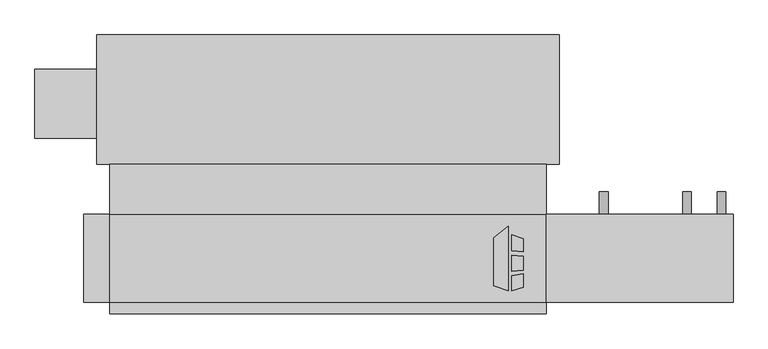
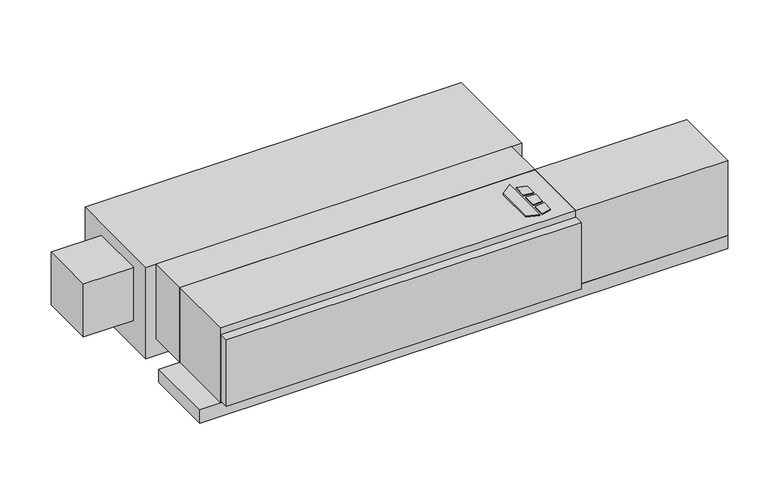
"""IFC4 building model written with IfcOpenShell, lengths in millimetres: proxy geometry, Concealed_Horizontal_Fan_Coil_Unit_With_Plenum_-_CPF_-_IEC_-_4-Pipe_RH : Size 08 - 115v/60Hz/1Ph - 4/1 Coil."""

from ifc_helpers import new_model, si_unit, point, frame, frame_2d, origin, origin_with_axes, place, context, project, spatial, polyline, circle_curve, trimmed, segment, composite_curve, outline, extrude, source, transform, mapped, element, save


def mechanical_equipment_af69e00f(model_context):
    return source(origin(), model_context, "Body", "SweptSolid", [
        extrude(outline(polyline([(518.8019761, -193.0453476), (551.3602728, -167.6080184), (551.3602728, -309.5625), (518.8019761, -299.3429201), (518.8019761, -193.0453476)])), origin_with_axes(), (0.0, 0.0, 1.0), 3.175),
        extrude(outline(polyline([(558.1186058, -220.917352), (558.1186058, -186.4374379), (584.2, -194.6240115), (584.2, -224.1197446), (558.1186058, -220.917352)])), origin_with_axes(), (0.0, 0.0, 1.0), 3.175),
        extrude(outline(polyline([(584.2, -302.5740115), (558.1186058, -309.5625), (558.1186058, -276.3411996), (584.2, -272.7993564), (584.2, -302.5740115)])), origin_with_axes(), (0.0, 0.0, 1.0), 3.175),
        extrude(outline(polyline([(584.2, -233.2013277), (584.2, -264.451483), (558.1186058, -267.192748), (558.1186058, -231.3350378), (584.2, -233.2013277)])), origin_with_axes(), (0.0, 0.0, 1.0), 3.175),
        extrude(outline(polyline([(-330.2, -30.1625), (635.0, -30.1625), (635.0, -141.2875), (-330.2, -141.2875), (-330.2, -30.1625)])), frame((0.0, 0.0, -215.9), z_axis=(0.0, 0.0, 1.0), x_axis=(1.0, 0.0, 0.0)), (0.0, 0.0, 1.0), 215.9),
        extrude(outline(composite_curve([segment(trimmed(circle_curve(frame_2d((-158.75, 946.15)), 9.525), [point((-158.75, 955.675))], [point((-158.75, 936.625))], False, "CARTESIAN"), True, "CONTINUOUS"), segment(trimmed(circle_curve(frame_2d((-158.75, 946.15)), 9.525), [point((-158.75, 936.625))], [point((-158.75, 955.675))], False, "CARTESIAN"), True, "CONTINUOUS")], self_intersect=False)), frame((0.0, -141.2875, 0.0), z_axis=(0.0, 1.0, 0.0), x_axis=(0.0, 0.0, 1.0)), (0.0, 0.0, 1.0), 50.8),
        extrude(outline(composite_curve([segment(trimmed(circle_curve(frame_2d((-69.85, 946.15)), 9.525), [point((-69.85, 955.675))], [point((-69.85, 936.625))], False, "CARTESIAN"), True, "CONTINUOUS"), segment(trimmed(circle_curve(frame_2d((-69.85, 946.15)), 9.525), [point((-69.85, 936.625))], [point((-69.85, 955.675))], False, "CARTESIAN"), True, "CONTINUOUS")], self_intersect=False)), frame((0.0, -141.2875, 0.0), z_axis=(0.0, 1.0, 0.0), x_axis=(0.0, 0.0, 1.0)), (0.0, 0.0, 1.0), 50.8),
        extrude(outline(composite_curve([segment(trimmed(circle_curve(frame_2d((-69.85, 762.0)), 9.525), [point((-69.85, 771.525))], [point((-69.85, 752.475))], False, "CARTESIAN"), True, "CONTINUOUS"), segment(trimmed(circle_curve(frame_2d((-69.85, 762.0)), 9.525), [point((-69.85, 752.475))], [point((-69.85, 771.525))], False, "CARTESIAN"), True, "CONTINUOUS")], self_intersect=False)), frame((0.0, -141.2875, 0.0), z_axis=(0.0, 1.0, 0.0), x_axis=(0.0, 0.0, 1.0)), (0.0, 0.0, 1.0), 50.8),
        extrude(outline(composite_curve([segment(trimmed(circle_curve(frame_2d((-158.75, 762.0)), 9.525), [point((-158.75, 771.525))], [point((-158.75, 752.475))], False, "CARTESIAN"), True, "CONTINUOUS"), segment(trimmed(circle_curve(frame_2d((-158.75, 762.0)), 9.525), [point((-158.75, 752.475))], [point((-158.75, 771.525))], False, "CARTESIAN"), True, "CONTINUOUS")], self_intersect=False)), frame((0.0, -141.2875, 0.0), z_axis=(0.0, 1.0, 0.0), x_axis=(0.0, 0.0, 1.0)), (0.0, 0.0, 1.0), 50.8),
        extrude(outline(polyline([(1047.75, -141.2875), (1047.75, -334.9625), (635.0, -334.9625), (635.0, -141.2875), (1047.75, -141.2875)])), frame((0.0, 0.0, -215.9), z_axis=(0.0, 0.0, 1.0), x_axis=(1.0, 0.0, 0.0)), (0.0, 0.0, 1.0), 215.9),
        extrude(outline(composite_curve([segment(trimmed(circle_curve(frame_2d((-241.3, 1022.35)), 9.525), [point((-241.3, 1012.825))], [point((-241.3, 1031.875))], False, "CARTESIAN"), True, "CONTINUOUS"), segment(trimmed(circle_curve(frame_2d((-241.3, 1022.35)), 9.525), [point((-241.3, 1031.875))], [point((-241.3, 1012.825))], False, "CARTESIAN"), True, "CONTINUOUS")], self_intersect=False)), frame((0.0, -141.2875, 0.0), z_axis=(0.0, 1.0, 0.0), x_axis=(0.0, 0.0, 1.0)), (0.0, 0.0, 1.0), 50.8),
        extrude(outline(polyline([(635.0, -334.9625), (635.0, -360.3625), (-330.2, -360.3625), (-330.2, -334.9625), (635.0, -334.9625)])), frame((0.0, 0.0, -209.55), z_axis=(0.0, 0.0, 1.0), x_axis=(1.0, 0.0, 0.0)), (0.0, 0.0, 1.0), 190.5),
        extrude(outline(polyline([(635.0, -334.9625), (-330.2, -334.9625), (-330.2, -141.2875), (635.0, -141.2875), (635.0, -334.9625)])), frame((0.0, 0.0, -215.9), z_axis=(0.0, 0.0, 1.0), x_axis=(1.0, 0.0, 0.0)), (0.0, 0.0, 1.0), 215.9),
        extrude(outline(polyline([(1047.75, -141.2875), (1047.75, -334.9625), (-387.35, -334.9625), (-387.35, -141.2875), (1047.75, -141.2875)])), frame((0.0, 0.0, -254.0), z_axis=(0.0, 0.0, 1.0), x_axis=(1.0, 0.0, 0.0)), (0.0, 0.0, 1.0), 38.1),
        extrude(outline(polyline([(-495.3, 26.9875), (-495.3, 179.3875), (-358.775, 179.3875), (-358.775, 26.9875), (-495.3, 26.9875)])), frame((0.0, 0.0, -187.325), z_axis=(0.0, 0.0, 1.0), x_axis=(1.0, 0.0, 0.0)), (0.0, 0.0, 1.0), 152.4),
        extrude(outline(polyline([(-358.775, 255.5875), (663.575, 255.5875), (663.575, -30.1625), (-358.775, -30.1625), (-358.775, 255.5875)])), frame((0.0, 0.0, -263.525), z_axis=(0.0, 0.0, 1.0), x_axis=(1.0, 0.0, 0.0)), (0.0, 0.0, 1.0), 263.525),
    ])


if __name__ == "__main__":
    model = new_model("IFC4")
    model_context = context("Model", 3, world=origin())
    ifc_project = project(units=[si_unit("LENGTHUNIT", "METRE", prefix="MILLI")], contexts=[model_context])
    site = spatial("IfcSite", under=ifc_project)
    building = spatial("IfcBuilding", under=site)
    placement = place(None, origin())
    mechanical_equipment_shape = mechanical_equipment_af69e00f(model_context)
    element("IfcBuildingElementProxy", 1, Name="Concealed_Horizontal_Fan_Coil_Unit_With_Plenum_-_CPF_-_IEC_-_4-Pipe_RH : Size 08 - 115v/60Hz/1Ph - 4/1 Coil", ObjectType="Concealed_Horizontal_Fan_Coil_Unit_With_Plenum_-_CPF_-_IEC_-_4-Pipe_RH : Size 08 - 115v/60Hz/1Ph - 4/1 Coil", at=placement, inside=building, context=model_context, shape_type="MappedRepresentation", body=[
        mapped(mechanical_equipment_shape, transform((0.0, 0.0, 0.0), x_axis=(1.0, 0.0, 0.0), y_axis=(0.0, 1.0, 0.0), z_axis=(0.0, 0.0, 1.0))),
    ])
    save(model, "model.ifc")
